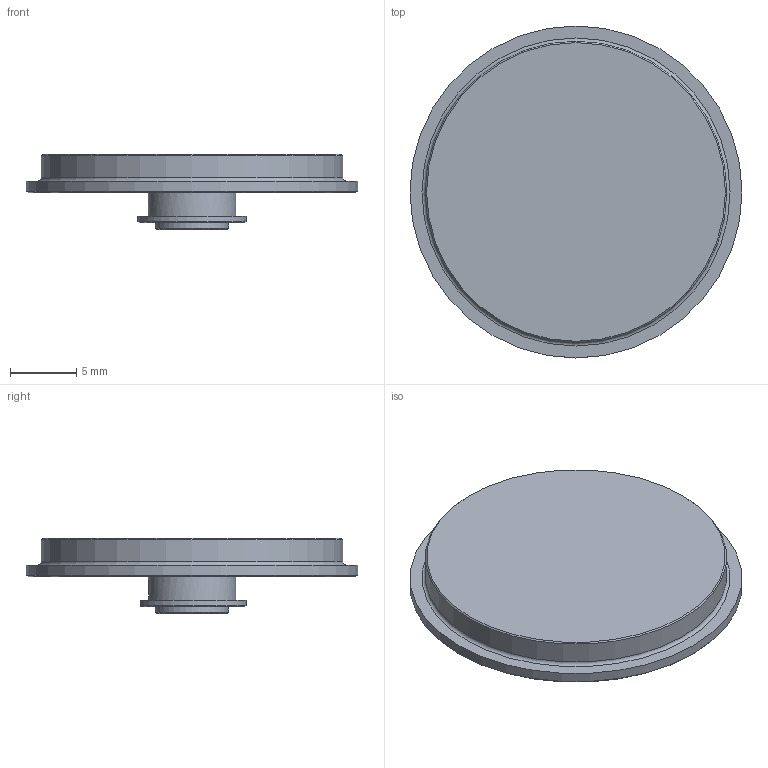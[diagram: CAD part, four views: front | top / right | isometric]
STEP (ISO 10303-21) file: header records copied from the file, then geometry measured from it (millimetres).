
FILE_DESCRIPTION(/* description */ (''),/* implementation_level */ '2;1');
FILE_NAME(/* name */ 'LA-2237-0893#-B.stp',/* time_stamp */ '2012-09-07T08:52:17+01:00',/* author */ (''),/* organization */ (''),/* preprocessor_version */ 'ST-DEVELOPER v11',/* originating_system */ 'SIEMENS PLM Software NX 7.5',/* authorisation */ '');
FILE_SCHEMA (('AUTOMOTIVE_DESIGN { 1 0 10303 214 1 1 1 1 }'));
Length unit declared in the file: millimetre
Products named in the file (1): rt13371Ayuut
Bounding box: 25 x 25 x 5.65 mm (x, y, z)
Volume: 1177.5 mm3; surface area: 1308.9 mm2
Topology: 1 solids, 1 shells, 37 faces, 141 edges, 118 vertices
Faces by surface type: plane 16, cylinder 11, cone 8, torus 2
Full cylindrical faces by diameter (mm): 2.46 x1, 3.2 x1, 5.5 x1, 5.7 x1, 6.6 x1, 22.7 x1, 25 x1
Entity records: 1807 total; most frequent: CARTESIAN_POINT 417, ORIENTED_EDGE 240, DIRECTION 188, EDGE_CURVE 120, VERTEX_POINT 113, AXIS2_PLACEMENT_3D 73, EDGE_LOOP 65, FACE_BOUND 50
